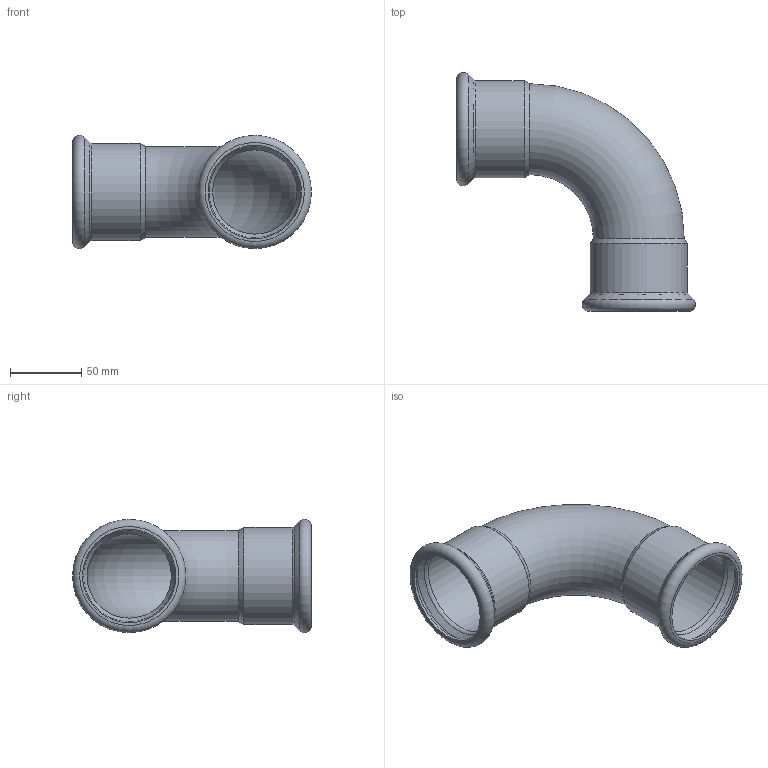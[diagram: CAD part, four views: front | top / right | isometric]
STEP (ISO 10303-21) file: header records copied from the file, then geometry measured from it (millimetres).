
FILE_DESCRIPTION((''),'2;1');
FILE_NAME('G:\Nirosan-Schmiedefeld\Technics\CAD\Bauteile VA\064\064 3d_step\69002A64(0).stp','2009-05-08T09:11:23',('herberg'),(''),'Autodesk Inventor 2009','Autodesk Inventor 2009','');
FILE_SCHEMA(('AUTOMOTIVE_DESIGN { 1 0 10303 214 1 1 1 1 }'));
Length unit declared in the file: millimetre
Products named in the file (1): 69002A64(0)
Bounding box: 168.25 x 168.25 x 79.8 mm (x, y, z)
Volume: 103370.7 mm3; surface area: 96953.3 mm2
Topology: 1 solids, 1 shells, 28 faces, 52 edges, 28 vertices
Faces by surface type: cone 8, torus 6, cylinder 6, plane 4, bspline 4
Full cylindrical faces by diameter (mm): 64.4 x2, 65.7 x2, 68.4 x2
Entity records: 790 total; most frequent: CARTESIAN_POINT 297, DIRECTION 106, ORIENTED_EDGE 56, EDGE_LOOP 56, AXIS2_PLACEMENT_3D 53, VERTEX_POINT 28, CIRCLE 28, EDGE_CURVE 28
